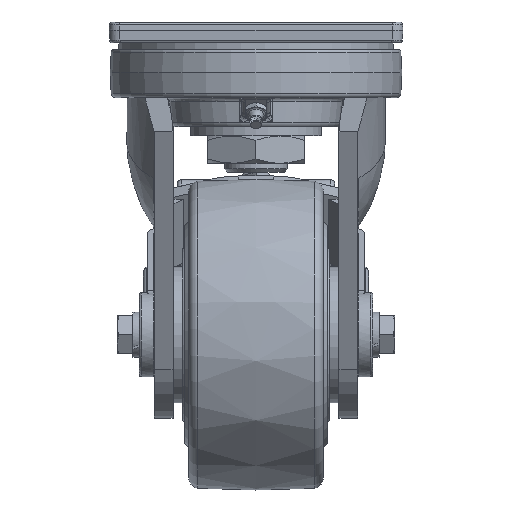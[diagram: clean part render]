
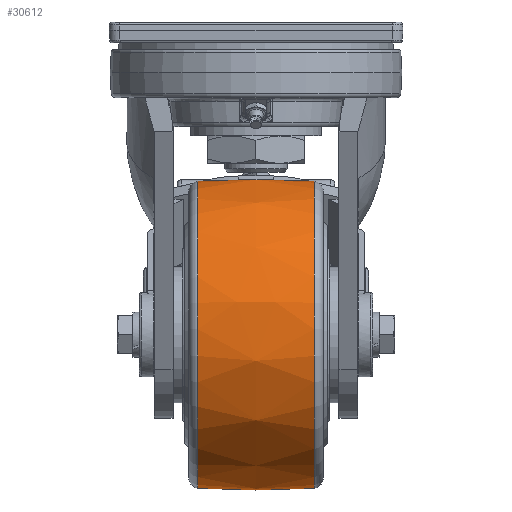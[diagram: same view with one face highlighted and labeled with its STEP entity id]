
A CAD part, left-side view. The second image highlights one B-rep face of the part: STEP entity #30612.
In plain terms, the highlighted free-form (B-spline) face has degree [2, 2] with [3, 9] control points.
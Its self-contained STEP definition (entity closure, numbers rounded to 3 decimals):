
#27=(
BOUNDED_SURFACE()
B_SPLINE_SURFACE(2,2,((#49722,#49723,#49724,#49725,#49726,#49727,#49728,
#49729,#49730),(#49731,#49732,#49733,#49734,#49735,#49736,#49737,#49738,
#49739),(#49740,#49741,#49742,#49743,#49744,#49745,#49746,#49747,#49748)),
 .UNSPECIFIED.,.F.,.T.,.F.)
B_SPLINE_SURFACE_WITH_KNOTS((3,3),(3,2,2,2,3),(-0.132,0.132),
(-3.142,-1.571,0.,1.571,3.142),
 .UNSPECIFIED.)
GEOMETRIC_REPRESENTATION_ITEM()
RATIONAL_B_SPLINE_SURFACE(((1.,0.707,1.,0.707,1.,
0.707,1.,0.707,1.),(0.991,0.701,
0.991,0.701,0.991,0.701,
0.991,0.701,0.991),(1.,0.707,
1.,0.707,1.,0.707,1.,0.707,1.)))
REPRESENTATION_ITEM('')
SURFACE()
);
#8478=FACE_OUTER_BOUND('',#10271,.T.);
#10271=EDGE_LOOP('',(#23553,#23554,#23555,#23556,#23557,#23558));
#11816=CIRCLE('',#32640,73.171);
#11817=CIRCLE('',#32641,73.171);
#11818=CIRCLE('',#32642,210.);
#11819=CIRCLE('',#32643,73.171);
#11820=CIRCLE('',#32644,73.171);
#13259=VERTEX_POINT('',#49717);
#13260=VERTEX_POINT('',#49719);
#13261=VERTEX_POINT('',#49749);
#13262=VERTEX_POINT('',#49751);
#17003=EDGE_CURVE('',#13259,#13260,#11816,.T.);
#17004=EDGE_CURVE('',#13260,#13259,#11817,.T.);
#17005=EDGE_CURVE('',#13259,#13261,#11818,.T.);
#17006=EDGE_CURVE('',#13261,#13262,#11819,.T.);
#17007=EDGE_CURVE('',#13262,#13261,#11820,.T.);
#23553=ORIENTED_EDGE('',*,*,#17004,.F.);
#23554=ORIENTED_EDGE('',*,*,#17003,.F.);
#23555=ORIENTED_EDGE('',*,*,#17005,.T.);
#23556=ORIENTED_EDGE('',*,*,#17006,.T.);
#23557=ORIENTED_EDGE('',*,*,#17007,.T.);
#23558=ORIENTED_EDGE('',*,*,#17005,.F.);
#30612=ADVANCED_FACE('',(#8478),#27,.F.);
#32640=AXIS2_PLACEMENT_3D('',#49720,#36455,#36456);
#32641=AXIS2_PLACEMENT_3D('',#49721,#36457,#36458);
#32642=AXIS2_PLACEMENT_3D('',#49750,#36459,#36460);
#32643=AXIS2_PLACEMENT_3D('',#49752,#36461,#36462);
#32644=AXIS2_PLACEMENT_3D('',#49753,#36463,#36464);
#36455=DIRECTION('center_axis',(0.,1.,0.));
#36456=DIRECTION('ref_axis',(0.978,0.,-0.209));
#36457=DIRECTION('center_axis',(0.,1.,0.));
#36458=DIRECTION('ref_axis',(0.978,0.,-0.209));
#36459=DIRECTION('center_axis',(0.209,0.,
0.978));
#36460=DIRECTION('ref_axis',(-0.978,0.,0.209));
#36461=DIRECTION('center_axis',(0.,1.,0.));
#36462=DIRECTION('ref_axis',(0.978,0.,-0.209));
#36463=DIRECTION('center_axis',(0.,1.,0.));
#36464=DIRECTION('ref_axis',(0.978,0.,-0.209));
#49717=CARTESIAN_POINT('',(-23.259,27.659,-120.728));
#49719=CARTESIAN_POINT('',(33.028,27.659,-207.559));
#49720=CARTESIAN_POINT('Origin',(48.3,27.659,-136.));
#49721=CARTESIAN_POINT('Origin',(48.3,27.659,-136.));
#49722=CARTESIAN_POINT('Ctrl Pts',(-23.259,-27.659,
-120.728));
#49723=CARTESIAN_POINT('Ctrl Pts',(-7.988,-27.659,
-49.169));
#49724=CARTESIAN_POINT('Ctrl Pts',(63.572,-27.659,-64.441));
#49725=CARTESIAN_POINT('Ctrl Pts',(135.131,-27.659,-79.712));
#49726=CARTESIAN_POINT('Ctrl Pts',(119.859,-27.659,-151.272));
#49727=CARTESIAN_POINT('Ctrl Pts',(104.588,-27.659,-222.831));
#49728=CARTESIAN_POINT('Ctrl Pts',(33.028,-27.659,-207.559));
#49729=CARTESIAN_POINT('Ctrl Pts',(-38.531,-27.659,
-192.288));
#49730=CARTESIAN_POINT('Ctrl Pts',(-23.259,-27.659,
-120.728));
#49731=CARTESIAN_POINT('Ctrl Pts',(-26.853,0.,
-119.961));
#49732=CARTESIAN_POINT('Ctrl Pts',(-10.814,0.,
-44.808));
#49733=CARTESIAN_POINT('Ctrl Pts',(64.339,0.,
-60.847));
#49734=CARTESIAN_POINT('Ctrl Pts',(139.492,0.,
-76.886));
#49735=CARTESIAN_POINT('Ctrl Pts',(123.453,0.,
-152.039));
#49736=CARTESIAN_POINT('Ctrl Pts',(107.414,0.,
-227.192));
#49737=CARTESIAN_POINT('Ctrl Pts',(32.261,0.,
-211.153));
#49738=CARTESIAN_POINT('Ctrl Pts',(-42.892,0.,
-195.114));
#49739=CARTESIAN_POINT('Ctrl Pts',(-26.853,0.,
-119.961));
#49740=CARTESIAN_POINT('Ctrl Pts',(-23.259,27.659,-120.728));
#49741=CARTESIAN_POINT('Ctrl Pts',(-7.988,27.659,-49.169));
#49742=CARTESIAN_POINT('Ctrl Pts',(63.572,27.659,-64.441));
#49743=CARTESIAN_POINT('Ctrl Pts',(135.131,27.659,-79.712));
#49744=CARTESIAN_POINT('Ctrl Pts',(119.859,27.659,-151.272));
#49745=CARTESIAN_POINT('Ctrl Pts',(104.588,27.659,-222.831));
#49746=CARTESIAN_POINT('Ctrl Pts',(33.028,27.659,-207.559));
#49747=CARTESIAN_POINT('Ctrl Pts',(-38.531,27.659,-192.288));
#49748=CARTESIAN_POINT('Ctrl Pts',(-23.259,27.659,-120.728));
#49749=CARTESIAN_POINT('',(-23.259,-27.659,-120.728));
#49750=CARTESIAN_POINT('Origin',(180.327,0.,
-164.176));
#49751=CARTESIAN_POINT('',(33.028,-27.659,-207.559));
#49752=CARTESIAN_POINT('Origin',(48.3,-27.659,-136.));
#49753=CARTESIAN_POINT('Origin',(48.3,-27.659,-136.));
